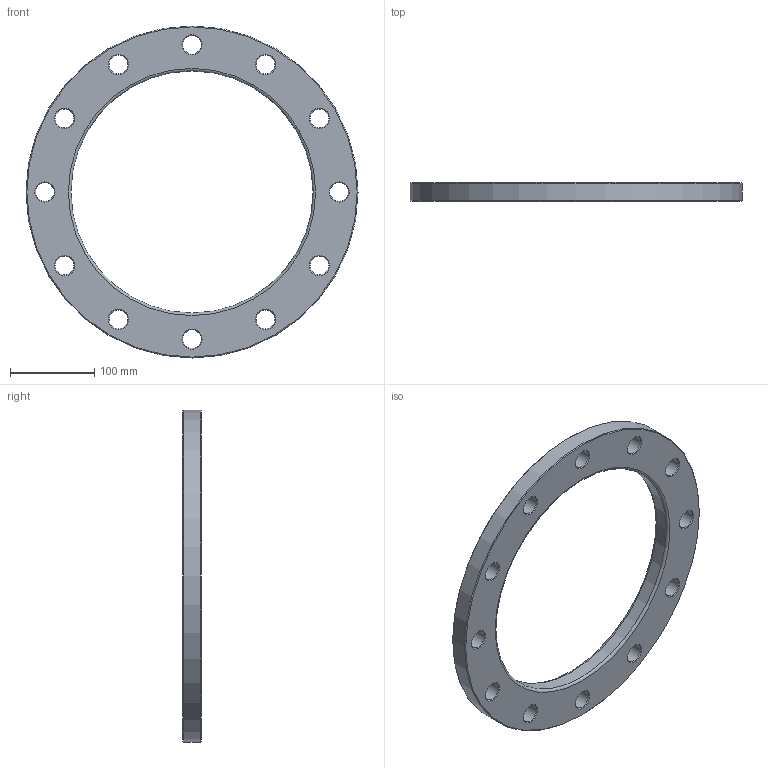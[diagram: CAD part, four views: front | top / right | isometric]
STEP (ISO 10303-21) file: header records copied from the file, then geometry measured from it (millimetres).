
FILE_DESCRIPTION(/* description */ ('Unknown'),/* implementation_level */ '2;1');
FILE_NAME(/* name */ 'FZ250B',/* time_stamp */ '2021-03-15T10:05:04+01:00',/* author */ ('Unknown'),/* organization */ ('Unknown'),/* preprocessor_version */ 'ST-DEVELOPER v16.7',/* originating_system */ 'Solid Edge',/* authorisation */ 'Unknown');
FILE_SCHEMA (('AUTOMOTIVE_DESIGN {1 0 10303 214 3 1 1}'));
Length unit declared in the file: millimetre
Products named in the file (1): FZ250B
Bounding box: 395 x 22 x 395 mm (x, y, z)
Volume: 1156789.4 mm3; surface area: 166405.2 mm2
Topology: 1 solids, 1 shells, 44 faces, 134 edges, 92 vertices
Faces by surface type: cone 26, cylinder 14, plane 2, torus 2
Full cylindrical faces by diameter (mm): 22 x12, 288 x1, 395 x1
Entity records: 1086 total; most frequent: DIRECTION 202, CARTESIAN_POINT 157, ORIENTED_EDGE 112, EDGE_LOOP 112, FACE_BOUND 112, AXIS2_PLACEMENT_3D 101, EDGE_CURVE 56, VERTEX_POINT 56
